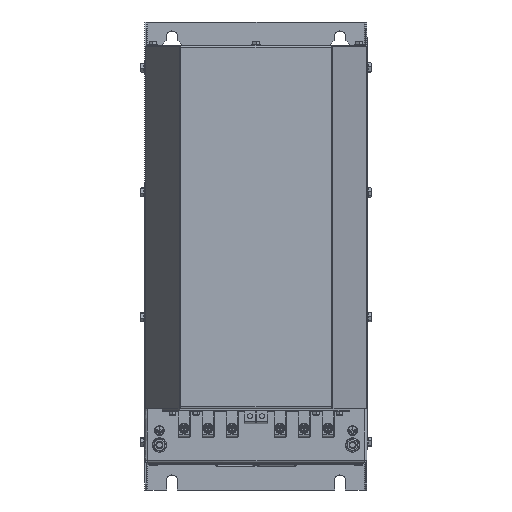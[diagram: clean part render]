
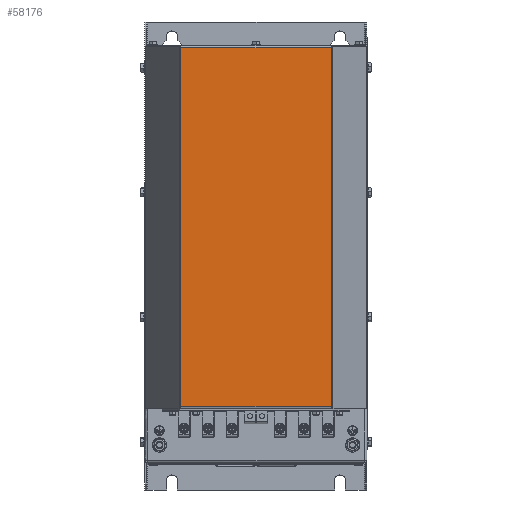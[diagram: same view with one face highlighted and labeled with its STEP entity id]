
A CAD part, front view. The second image highlights one B-rep face of the part: STEP entity #58176.
In plain terms, the highlighted planar face has unit normal (0, -1, 0).
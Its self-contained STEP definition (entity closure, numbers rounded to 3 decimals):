
#58137=CARTESIAN_POINT('',(62.593,-190.,-127.5));
#58138=DIRECTION('',(0.0,-1.0,0.0));
#58139=DIRECTION('',(0.0,0.0,-1.0));
#58140=AXIS2_PLACEMENT_3D('',#58137,#58138,#58139);
#58141=PLANE('',#58140);
#58142=CARTESIAN_POINT('',(-62.593,-190.,-125.7));
#58143=VERTEX_POINT('',#58142);
#58144=CARTESIAN_POINT('',(62.593,-190.,-125.7));
#58145=VERTEX_POINT('',#58144);
#58146=CARTESIAN_POINT('',(-62.593,-190.,-125.7));
#58147=DIRECTION('',(1.0,0.0,0.0));
#58148=VECTOR('',#58147,125.187);
#58149=LINE('',#58146,#58148);
#58150=EDGE_CURVE('',#58143,#58145,#58149,.T.);
#58151=ORIENTED_EDGE('',*,*,#58150,.T.);
#58152=CARTESIAN_POINT('',(62.593,-190.,173.7));
#58153=VERTEX_POINT('',#58152);
#58154=CARTESIAN_POINT('',(62.593,-190.,-125.7));
#58155=DIRECTION('',(0.0,0.0,1.0));
#58156=VECTOR('',#58155,299.4);
#58157=LINE('',#58154,#58156);
#58158=EDGE_CURVE('',#58145,#58153,#58157,.T.);
#58159=ORIENTED_EDGE('',*,*,#58158,.T.);
#58160=CARTESIAN_POINT('',(-62.593,-190.,173.7));
#58161=VERTEX_POINT('',#58160);
#58162=CARTESIAN_POINT('',(62.593,-190.,173.7));
#58163=DIRECTION('',(-1.0,0.0,0.0));
#58164=VECTOR('',#58163,125.187);
#58165=LINE('',#58162,#58164);
#58166=EDGE_CURVE('',#58153,#58161,#58165,.T.);
#58167=ORIENTED_EDGE('',*,*,#58166,.T.);
#58168=CARTESIAN_POINT('',(-62.593,-190.,-125.7));
#58169=DIRECTION('',(0.0,0.0,1.0));
#58170=VECTOR('',#58169,299.4);
#58171=LINE('',#58168,#58170);
#58172=EDGE_CURVE('',#58143,#58161,#58171,.T.);
#58173=ORIENTED_EDGE('',*,*,#58172,.F.);
#58174=EDGE_LOOP('',(#58151,#58159,#58167,#58173));
#58175=FACE_OUTER_BOUND('',#58174,.T.);
#58176=ADVANCED_FACE('',(#58175),#58141,.T.);
